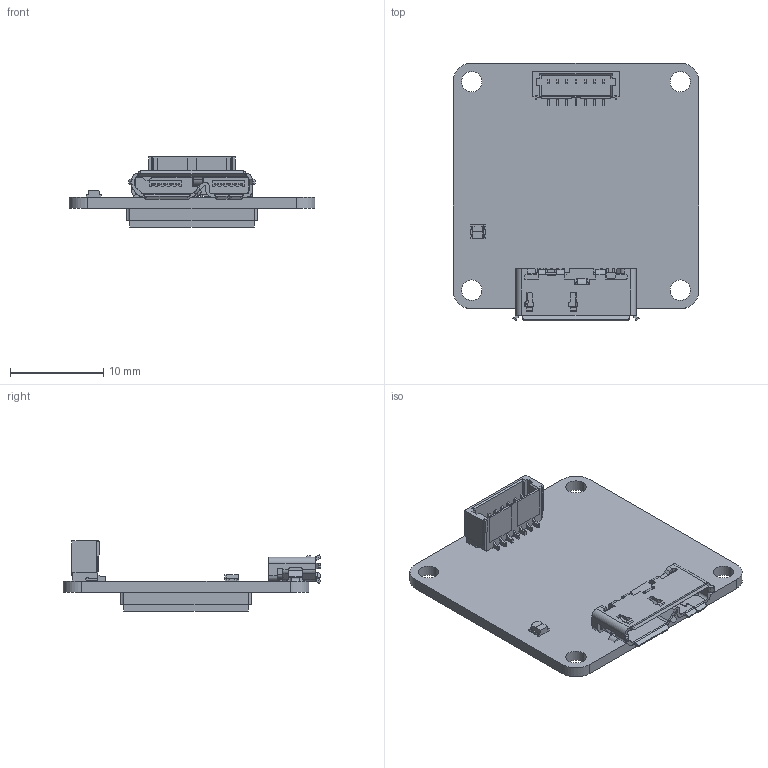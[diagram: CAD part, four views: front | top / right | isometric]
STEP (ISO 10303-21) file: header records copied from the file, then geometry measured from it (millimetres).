
FILE_DESCRIPTION (( 'STEP AP214' ), '1' );
FILE_NAME ('Aria_Board.STEP', '2020-07-14T10:11:11', ( '' ), ( '' ), 'SwSTEP 2.0', 'SolidWorks 2019', '' );
FILE_SCHEMA (( 'AUTOMOTIVE_DESIGN' ));
Length unit declared in the file: millimetre
Products named in the file (1): Aria_Board
Bounding box: 26.4 x 27.7 x 7.52 mm (x, y, z)
Volume: 1223 mm3; surface area: 3205.4 mm2
Topology: 16 solids, 16 shells, 1424 faces, 3704 edges, 2438 vertices
Faces by surface type: plane 894, cylinder 526, bspline 4
Entity records: 60321 total; most frequent: CARTESIAN_POINT 8769, DIRECTION 7424, ORIENTED_EDGE 7400, EDGE_CURVE 3700, VECTOR 2572, LINE 2572, VERTEX_POINT 2438, AXIS2_PLACEMENT_3D 2426
